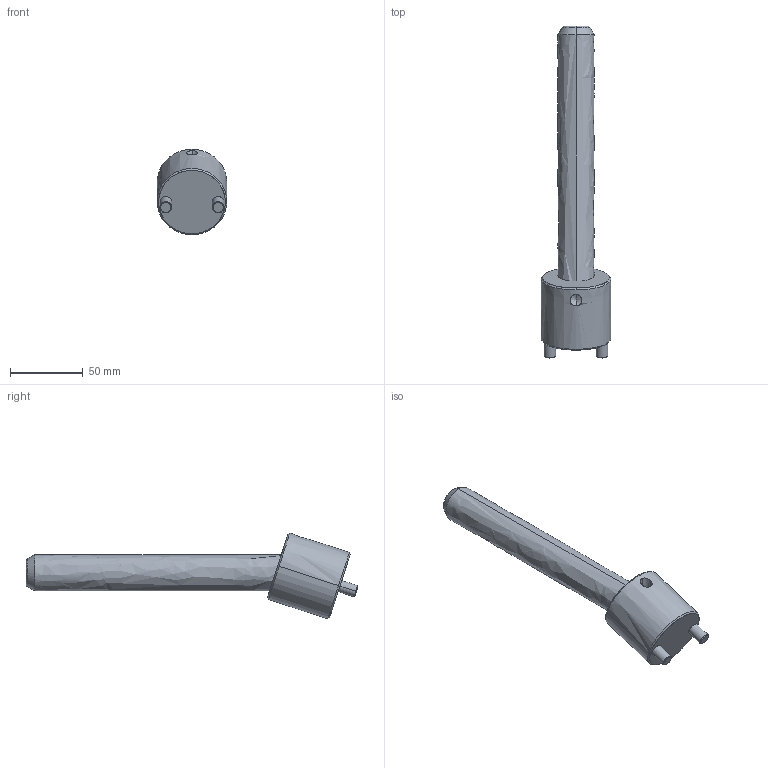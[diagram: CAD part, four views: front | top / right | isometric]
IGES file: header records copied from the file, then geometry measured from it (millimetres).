
Start section: START RECORD GO HERE.
Global section: file name: CI1825175.igs; native system: DASSAULT SYSTEMES CATIA V5 R20 - www.3ds.com; preprocessor: CATIA Version 5 Release 20 ; author: r.borello; organization: CFTORINO; date: 20190624.094632; units: millimetre
Bounding box: 48 x 228.84 x 58.94 mm (x, y, z)
Surface area: 31290.3 mm2 (no closed solid volume)
Topology: 0 solids, 0 shells, 39 faces, 162 edges, 160 vertices
Faces by surface type: revolution 32, plane 7
